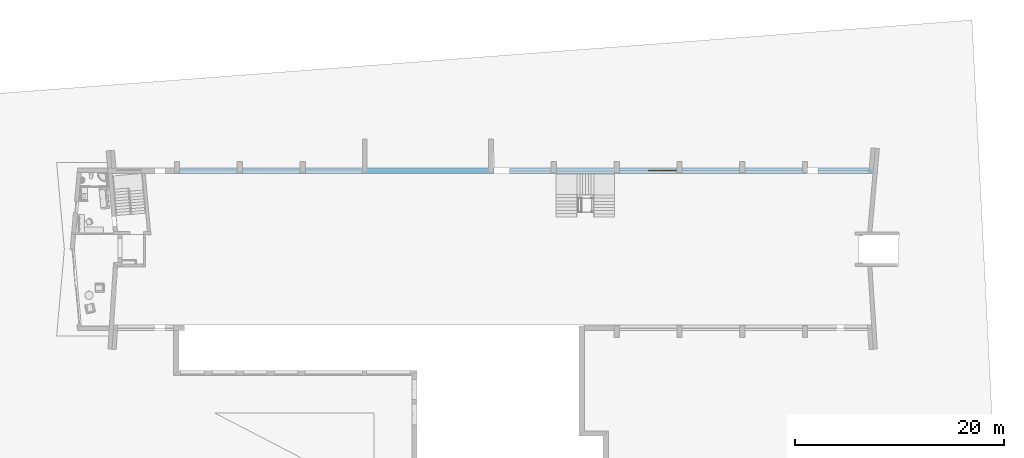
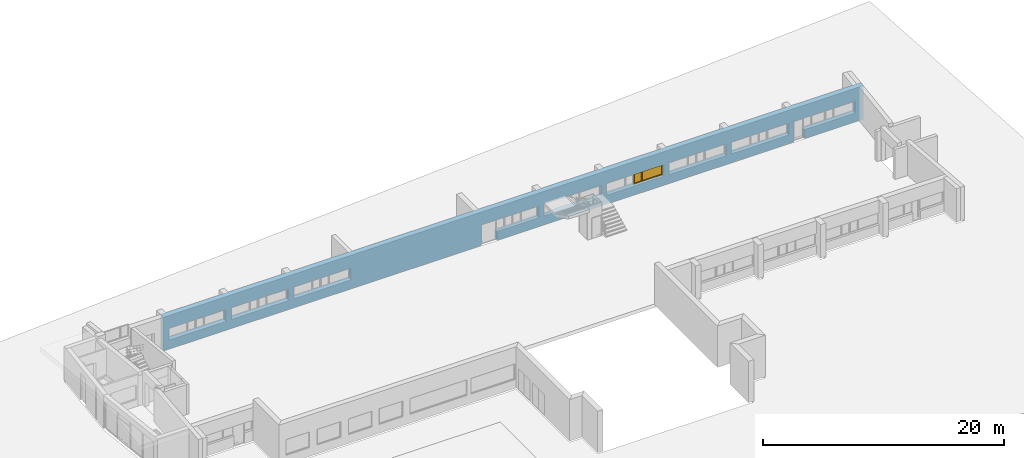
# One storey, part 7 of 36: 1 window, 20 openings, plus 1 element that does not belong to this part.
"""IFC2X3 building model written with IfcOpenShell, lengths in millimetres."""

from ifc_helpers import new_model, entity, si_unit, converted_unit, money_unit, direction, frame, origin_with_axes, place, context, subcontext, project, spatial, polyline, outline, extrude, open_shell, faceted_brep, surface_model, source, transform, mapped, material, material_list, layer, layer_set, layer_usage, type_object, element, fill, save


model = new_model("IFC2X3")

# Units and contexts
model_context = context("Model", 3, precision=1e-05, world=origin_with_axes(), true_north=direction((0.0, 1.0)))
body_context = subcontext(model_context, "Body", "Model", "MODEL_VIEW")
ifc_project = project(units=[si_unit("LENGTHUNIT", "METRE", prefix="MILLI"), si_unit("AREAUNIT", "SQUARE_METRE"), si_unit("VOLUMEUNIT", "CUBIC_METRE"), converted_unit("PLANEANGLEUNIT", "DEGREE", entity("IfcPlaneAngleMeasure", 0.0174532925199), si_unit("PLANEANGLEUNIT", "RADIAN"), dimensions=[0, 0, 0, 0, 0, 0, 0]), si_unit("SOLIDANGLEUNIT", "STERADIAN"), money_unit("USD"), converted_unit("TIMEUNIT", "Year", entity("IfcTimeMeasure", 31556926.0), si_unit("TIMEUNIT", "SECOND"), dimensions=[0, 0, 0, 0, 0, 0, 0]), si_unit("MASSUNIT", "GRAM"), si_unit("THERMODYNAMICTEMPERATUREUNIT", "DEGREE_CELSIUS"), si_unit("LUMINOUSINTENSITYUNIT", "LUMEN")], contexts=[model_context])

# Site, building, storey
site_placement = place(None, origin_with_axes())
site = spatial("IfcSite", under=ifc_project, at=site_placement, Name="Site", CompositionType="ELEMENT")
building_placement = place(site_placement, origin_with_axes())
building = spatial("IfcBuilding", under=site, at=building_placement, Name="Building", CompositionType="ELEMENT")
storey_placement = place(building_placement, frame((0.0, 0.0, -3400.0), z_axis=(0.0, 0.0, 1.0), x_axis=(1.0, 0.0, 0.0)))
storey = spatial("IfcBuildingStorey", under=building, at=storey_placement, Name="1KORRUS", CompositionType="ELEMENT", Elevation=-3400.0)

# Wall, openings, window
ifc_material_1 = material(Name="Olemasolevad seinad tellis, uus viimistlus")
ifc_layer = layer(ifc_material_1, 500.0, ventilated="UNKNOWN")
ifc_layer_set = layer_set([ifc_layer], Name="Olemasolevad seinad tellis, uus viimistlus 500")
ifc_layer_usage = layer_usage(ifc_layer_set, "AXIS2", "POSITIVE", -100.0)
wall_type = type_object("IfcWallType", Name="Olemasolevad seinad tellis, uus viimistlus 500", PredefinedType="NOTDEFINED")
wall_placement = place(storey_placement, frame((-48393.8274049, -5039.6041088, 0.0), z_axis=(0.0, 0.0, 1.0), x_axis=(1.0, 0.0, 0.0)))
wall = element("IfcWallStandardCase", 1, at=wall_placement, inside=storey, type_object=wall_type, material=ifc_layer_usage, Name="VS1", ObjectType="VS1", context=body_context, shape_type="SweptSolid", body=[
    extrude(outline(polyline([(0.0, -100.0), (67149.8194303, -100.0), (67149.8194303, 400.0), (0.0, 400.0), (0.0, -100.0)])), origin_with_axes(), (0.0, 0.0, 1.0), 3400.0),
])
opening_1_placement = place(wall_placement, frame((1878.53070154, 0.0, 900.0), z_axis=(0.0, 0.0, 1.0), x_axis=(1.0, 0.0, 0.0)))
element("IfcOpeningElement", 2, at=opening_1_placement, cuts=wall, Name="Olemasolevad aknad jäävad", context=body_context, shape_type="SweptSolid", body=[
    extrude(outline(polyline([(-1375.0, 1200.0), (-1375.0, 0.0), (1375.0, 0.0), (1375.0, 1200.0), (-1375.0, 1200.0)])), frame((0.0, 250.0, 0.0), z_axis=(0.0, -1.0, 0.0), x_axis=(1.0, 0.0, 0.0)), (0.0, 0.0, 1.0), 850.0),
    extrude(outline(polyline([(-1375.0, 0.0), (-1375.0, -1200.0), (1375.0, -1200.0), (1375.0, 0.0), (-1375.0, 0.0)])), frame((0.0, 250.0, 0.0), z_axis=(0.0, 1.0, 0.0), x_axis=(1.0, 0.0, 0.0)), (0.0, 0.0, 1.0), 650.0),
])
opening_2_placement = place(wall_placement, frame((7878.53070154, 0.0, 900.0), z_axis=(0.0, 0.0, 1.0), x_axis=(1.0, 0.0, 0.0)))
element("IfcOpeningElement", 3, at=opening_2_placement, cuts=wall, Name="Olemasolevad aknad jäävad", context=body_context, shape_type="SweptSolid", body=[
    extrude(outline(polyline([(-1375.0, 1200.0), (-1375.0, 0.0), (1375.0, 0.0), (1375.0, 1200.0), (-1375.0, 1200.0)])), frame((0.0, 250.0, 0.0), z_axis=(0.0, -1.0, 0.0), x_axis=(1.0, 0.0, 0.0)), (0.0, 0.0, 1.0), 850.0),
    extrude(outline(polyline([(-1375.0, 0.0), (-1375.0, -1200.0), (1375.0, -1200.0), (1375.0, 0.0), (-1375.0, 0.0)])), frame((0.0, 250.0, 0.0), z_axis=(0.0, 1.0, 0.0), x_axis=(1.0, 0.0, 0.0)), (0.0, 0.0, 1.0), 650.0),
])
opening_3_placement = place(wall_placement, frame((13878.5307015, 0.0, 900.0), z_axis=(0.0, 0.0, 1.0), x_axis=(1.0, 0.0, 0.0)))
element("IfcOpeningElement", 4, at=opening_3_placement, cuts=wall, Name="Olemasolevad aknad jäävad", context=body_context, shape_type="SweptSolid", body=[
    extrude(outline(polyline([(-1375.0, 1200.0), (-1375.0, 0.0), (1375.0, 0.0), (1375.0, 1200.0), (-1375.0, 1200.0)])), frame((0.0, 250.0, 0.0), z_axis=(0.0, -1.0, 0.0), x_axis=(1.0, 0.0, 0.0)), (0.0, 0.0, 1.0), 850.0),
    extrude(outline(polyline([(-1375.0, 0.0), (-1375.0, -1200.0), (1375.0, -1200.0), (1375.0, 0.0), (-1375.0, 0.0)])), frame((0.0, 250.0, 0.0), z_axis=(0.0, 1.0, 0.0), x_axis=(1.0, 0.0, 0.0)), (0.0, 0.0, 1.0), 650.0),
])
opening_4_placement = place(wall_placement, frame((4628.53070154, 0.0, 900.0), z_axis=(0.0, 0.0, 1.0), x_axis=(1.0, 0.0, 0.0)))
element("IfcOpeningElement", 5, at=opening_4_placement, cuts=wall, Name="Olemasolevad aknad jäävad", context=body_context, shape_type="SweptSolid", body=[
    extrude(outline(polyline([(1375.0, 1200.0), (-1375.0, 1200.0), (-1375.0, 0.0), (1375.0, 0.0), (1375.0, 1200.0)])), frame((0.0, 250.0, 0.0), z_axis=(0.0, -1.0, 0.0), x_axis=(1.0, 0.0, 0.0)), (0.0, 0.0, 1.0), 850.0),
    extrude(outline(polyline([(1375.0, 0.0), (-1375.0, 0.0), (-1375.0, -1200.0), (1375.0, -1200.0), (1375.0, 0.0)])), frame((0.0, 250.0, 0.0), z_axis=(0.0, 1.0, 0.0), x_axis=(1.0, 0.0, 0.0)), (0.0, 0.0, 1.0), 650.0),
])
opening_5_placement = place(wall_placement, frame((10628.5307015, 0.0, 900.0), z_axis=(0.0, 0.0, 1.0), x_axis=(1.0, 0.0, 0.0)))
element("IfcOpeningElement", 6, at=opening_5_placement, cuts=wall, Name="Olemasolevad aknad jäävad", context=body_context, shape_type="SweptSolid", body=[
    extrude(outline(polyline([(1375.0, 1200.0), (-1375.0, 1200.0), (-1375.0, 0.0), (1375.0, 0.0), (1375.0, 1200.0)])), frame((0.0, 250.0, 0.0), z_axis=(0.0, -1.0, 0.0), x_axis=(1.0, 0.0, 0.0)), (0.0, 0.0, 1.0), 850.0),
    extrude(outline(polyline([(1375.0, 0.0), (-1375.0, 0.0), (-1375.0, -1200.0), (1375.0, -1200.0), (1375.0, 0.0)])), frame((0.0, 250.0, 0.0), z_axis=(0.0, 1.0, 0.0), x_axis=(1.0, 0.0, 0.0)), (0.0, 0.0, 1.0), 650.0),
])
opening_6_placement = place(wall_placement, frame((16616.9651775, 0.0, 900.0), z_axis=(0.0, 0.0, 1.0), x_axis=(1.0, 0.0, 0.0)))
element("IfcOpeningElement", 7, at=opening_6_placement, cuts=wall, Name="Olemasolevad aknad jäävad", context=body_context, shape_type="SweptSolid", body=[
    extrude(outline(polyline([(1375.0, 1200.0), (-1375.0, 1200.0), (-1375.0, 0.0), (1375.0, 0.0), (1375.0, 1200.0)])), frame((0.0, 250.0, 0.0), z_axis=(0.0, -1.0, 0.0), x_axis=(1.0, 0.0, 0.0)), (0.0, 0.0, 1.0), 850.0),
    extrude(outline(polyline([(1375.0, 0.0), (-1375.0, 0.0), (-1375.0, -1200.0), (1375.0, -1200.0), (1375.0, 0.0)])), frame((0.0, 250.0, 0.0), z_axis=(0.0, 1.0, 0.0), x_axis=(1.0, 0.0, 0.0)), (0.0, 0.0, 1.0), 650.0),
])
opening_7_placement = place(wall_placement, frame((34803.5307015, 0.0, 900.0), z_axis=(0.0, 0.0, 1.0), x_axis=(1.0, 0.0, 0.0)))
element("IfcOpeningElement", 8, at=opening_7_placement, cuts=wall, Name="Olemasolevad aknad jäävad", context=body_context, shape_type="SweptSolid", body=[
    extrude(outline(polyline([(1200.0, 0.0), (-1200.0, 0.0), (-1200.0, -1200.0), (1200.0, -1200.0), (1200.0, 0.0)])), frame((0.0, 100.0, 0.0), z_axis=(0.0, 1.0, 0.0), x_axis=(1.0, 0.0, 0.0)), (0.0, 0.0, 1.0), 800.0),
    extrude(outline(polyline([(1200.0, 1200.0), (-1200.0, 1200.0), (-1200.0, 0.0), (1200.0, 0.0), (1200.0, 1200.0)])), frame((0.0, 100.0, 0.0), z_axis=(0.0, -1.0, 0.0), x_axis=(1.0, 0.0, 0.0)), (0.0, 0.0, 1.0), 700.0),
])
opening_8_placement = place(wall_placement, frame((40625.1633636, 0.0, 900.0), z_axis=(0.0, 0.0, 1.0), x_axis=(1.0, 0.0, 0.0)))
element("IfcOpeningElement", 9, at=opening_8_placement, cuts=wall, Name="Olemasolevad aknad jäävad", context=body_context, shape_type="SweptSolid", body=[
    extrude(outline(polyline([(1400.0, 0.0), (-1400.0, 0.0), (-1400.0, -1200.0), (1400.0, -1200.0), (1400.0, 0.0)])), frame((0.0, 100.0, 0.0), z_axis=(0.0, 1.0, 0.0), x_axis=(1.0, 0.0, 0.0)), (0.0, 0.0, 1.0), 800.0),
    extrude(outline(polyline([(1400.0, 1200.0), (-1400.0, 1200.0), (-1400.0, 0.0), (1400.0, 0.0), (1400.0, 1200.0)])), frame((0.0, 100.0, 0.0), z_axis=(0.0, -1.0, 0.0), x_axis=(1.0, 0.0, 0.0)), (0.0, 0.0, 1.0), 700.0),
])
opening_9_placement = place(wall_placement, frame((37871.3218818, 0.0, 900.0), z_axis=(0.0, 0.0, 1.0), x_axis=(1.0, 0.0, 0.0)))
element("IfcOpeningElement", 10, at=opening_9_placement, cuts=wall, Name="Olemasolevad aknad jäävad", context=body_context, shape_type="SweptSolid", body=[
    extrude(outline(polyline([(-1367.791, 0.0), (-1367.791, -1200.0), (1367.791, -1200.0), (1367.791, 0.0), (-1367.791, 0.0)])), frame((0.0, 150.0, 0.0), z_axis=(0.0, 1.0, 0.0), x_axis=(1.0, 0.0, 0.0)), (0.0, 0.0, 1.0), 750.0),
    extrude(outline(polyline([(-1367.791, 1200.0), (-1367.791, 0.0), (1367.791, 0.0), (1367.791, 1200.0), (-1367.791, 1200.0)])), frame((0.0, 150.0, 0.0), z_axis=(0.0, -1.0, 0.0), x_axis=(1.0, 0.0, 0.0)), (0.0, 0.0, 1.0), 750.0),
])
opening_10_placement = place(wall_placement, frame((46628.5307015, 0.0, 900.0), z_axis=(0.0, 0.0, 1.0), x_axis=(1.0, 0.0, 0.0)))
opening_10 = element("IfcOpeningElement", 11, at=opening_10_placement, cuts=wall, Name="Olemasolevad aknad jäävad", context=body_context, shape_type="SweptSolid", body=[
    extrude(outline(polyline([(1375.0, 1200.0), (-1375.0, 1200.0), (-1375.0, 0.0), (1375.0, 0.0), (1375.0, 1200.0)])), frame((0.0, 150.0, 0.0), z_axis=(0.0, -1.0, 0.0), x_axis=(1.0, 0.0, 0.0)), (0.0, 0.0, 1.0), 750.0),
    extrude(outline(polyline([(1375.0, 0.0), (-1375.0, 0.0), (-1375.0, -1200.0), (1375.0, -1200.0), (1375.0, 0.0)])), frame((0.0, 150.0, 0.0), z_axis=(0.0, 1.0, 0.0), x_axis=(1.0, 0.0, 0.0)), (0.0, 0.0, 1.0), 750.0),
])
opening_11_placement = place(wall_placement, frame((43878.5307015, 0.0, 900.0), z_axis=(0.0, 0.0, 1.0), x_axis=(1.0, 0.0, 0.0)))
element("IfcOpeningElement", 12, at=opening_11_placement, cuts=wall, Name="Olemasolevad aknad jäävad", context=body_context, shape_type="SweptSolid", body=[
    extrude(outline(polyline([(-1375.0, 1200.0), (-1375.0, 0.0), (1375.0, 0.0), (1375.0, 1200.0), (-1375.0, 1200.0)])), frame((0.0, 200.0, 0.0), z_axis=(0.0, -1.0, 0.0), x_axis=(1.0, 0.0, 0.0)), (0.0, 0.0, 1.0), 800.0),
    extrude(outline(polyline([(-1375.0, 0.0), (-1375.0, -1200.0), (1375.0, -1200.0), (1375.0, 0.0), (-1375.0, 0.0)])), frame((0.0, 200.0, 0.0), z_axis=(0.0, 1.0, 0.0), x_axis=(1.0, 0.0, 0.0)), (0.0, 0.0, 1.0), 700.0),
])
opening_12_placement = place(wall_placement, frame((52635.3834465, 0.0, 900.0), z_axis=(0.0, 0.0, 1.0), x_axis=(1.0, 0.0, 0.0)))
element("IfcOpeningElement", 13, at=opening_12_placement, cuts=wall, Name="Olemasolevad aknad jäävad", context=body_context, shape_type="SweptSolid", body=[
    extrude(outline(polyline([(1376.809, 1200.0), (-1376.809, 1200.0), (-1376.809, 0.0), (1376.809, 0.0), (1376.809, 1200.0)])), frame((0.0, 150.0, 0.0), z_axis=(0.0, -1.0, 0.0), x_axis=(1.0, 0.0, 0.0)), (0.0, 0.0, 1.0), 750.0),
    extrude(outline(polyline([(1376.809, 0.0), (-1376.809, 0.0), (-1376.809, -1200.0), (1376.809, -1200.0), (1376.809, 0.0)])), frame((0.0, 150.0, 0.0), z_axis=(0.0, 1.0, 0.0), x_axis=(1.0, 0.0, 0.0)), (0.0, 0.0, 1.0), 750.0),
])
opening_13_placement = place(wall_placement, frame((49883.9987013, 0.0, 900.0), z_axis=(0.0, 0.0, 1.0), x_axis=(1.0, 0.0, 0.0)))
element("IfcOpeningElement", 14, at=opening_13_placement, cuts=wall, Name="Olemasolevad aknad jäävad", context=body_context, shape_type="SweptSolid", body=[
    extrude(outline(polyline([(-1375.0, 1200.0), (-1375.0, 0.0), (1375.0, 0.0), (1375.0, 1200.0), (-1375.0, 1200.0)])), frame((0.0, 200.0, 0.0), z_axis=(0.0, -1.0, 0.0), x_axis=(1.0, 0.0, 0.0)), (0.0, 0.0, 1.0), 800.0),
    extrude(outline(polyline([(-1375.0, 0.0), (-1375.0, -1200.0), (1375.0, -1200.0), (1375.0, 0.0), (-1375.0, 0.0)])), frame((0.0, 200.0, 0.0), z_axis=(0.0, 1.0, 0.0), x_axis=(1.0, 0.0, 0.0)), (0.0, 0.0, 1.0), 700.0),
])
opening_14_placement = place(wall_placement, frame((58631.8843372, 0.0, 900.0), z_axis=(0.0, 0.0, 1.0), x_axis=(1.0, 0.0, 0.0)))
element("IfcOpeningElement", 15, at=opening_14_placement, cuts=wall, Name="Olemasolevad aknad jäävad", context=body_context, shape_type="SweptSolid", body=[
    extrude(outline(polyline([(1371.646, 1200.0), (-1371.646, 1200.0), (-1371.646, 0.0), (1371.646, 0.0), (1371.646, 1200.0)])), frame((0.0, 150.0, 0.0), z_axis=(0.0, -1.0, 0.0), x_axis=(1.0, 0.0, 0.0)), (0.0, 0.0, 1.0), 750.0),
    extrude(outline(polyline([(1371.646, 0.0), (-1371.646, 0.0), (-1371.646, -1200.0), (1371.646, -1200.0), (1371.646, 0.0)])), frame((0.0, 150.0, 0.0), z_axis=(0.0, 1.0, 0.0), x_axis=(1.0, 0.0, 0.0)), (0.0, 0.0, 1.0), 750.0),
])
opening_15_placement = place(wall_placement, frame((55886.6217615, 0.0, 900.0), z_axis=(0.0, 0.0, 1.0), x_axis=(1.0, 0.0, 0.0)))
element("IfcOpeningElement", 16, at=opening_15_placement, cuts=wall, Name="Olemasolevad aknad jäävad", context=body_context, shape_type="SweptSolid", body=[
    extrude(outline(polyline([(-1375.0, 1200.0), (-1375.0, 0.0), (1375.0, 0.0), (1375.0, 1200.0), (-1375.0, 1200.0)])), frame((0.0, 200.0, 0.0), z_axis=(0.0, -1.0, 0.0), x_axis=(1.0, 0.0, 0.0)), (0.0, 0.0, 1.0), 800.0),
    extrude(outline(polyline([(-1375.0, 0.0), (-1375.0, -1200.0), (1375.0, -1200.0), (1375.0, 0.0), (-1375.0, 0.0)])), frame((0.0, 200.0, 0.0), z_axis=(0.0, 1.0, 0.0), x_axis=(1.0, 0.0, 0.0)), (0.0, 0.0, 1.0), 700.0),
])
opening_16_placement = place(wall_placement, frame((64995.2517085, 0.0, 900.0), z_axis=(0.0, 0.0, 1.0), x_axis=(1.0, 0.0, 0.0)))
element("IfcOpeningElement", 17, at=opening_16_placement, cuts=wall, Name="Olemasolevad aknad jäävad", context=body_context, shape_type="SweptSolid", body=[
    extrude(outline(polyline([(1375.0, 1200.0), (-1375.0, 1200.0), (-1375.0, 0.0), (1375.0, 0.0), (1375.0, 1200.0)])), frame((0.0, 150.0, 0.0), z_axis=(0.0, -1.0, 0.0), x_axis=(1.0, 0.0, 0.0)), (0.0, 0.0, 1.0), 750.0),
    extrude(outline(polyline([(1375.0, 0.0), (-1375.0, 0.0), (-1375.0, -1200.0), (1375.0, -1200.0), (1375.0, 0.0)])), frame((0.0, 150.0, 0.0), z_axis=(0.0, 1.0, 0.0), x_axis=(1.0, 0.0, 0.0)), (0.0, 0.0, 1.0), 750.0),
])
opening_17_placement = place(wall_placement, frame((32810.8244307, 0.0, 900.0), z_axis=(0.0, 0.0, 1.0), x_axis=(1.0, 0.0, 0.0)))
element("IfcOpeningElement", 18, at=opening_17_placement, cuts=wall, Name="Olemasolevad aknad jäävad", context=body_context, shape_type="SweptSolid", body=[
    extrude(outline(polyline([(792.706, 0.0), (-792.706, 0.0), (-792.706, -1200.0), (792.706, -1200.0), (792.706, 0.0)])), frame((0.0, 100.0, 0.0), z_axis=(0.0, 1.0, 0.0), x_axis=(1.0, 0.0, 0.0)), (0.0, 0.0, 1.0), 800.0),
    extrude(outline(polyline([(792.706, 1200.0), (-792.706, 1200.0), (-792.706, 0.0), (792.706, 0.0), (792.706, 1200.0)])), frame((0.0, 100.0, 0.0), z_axis=(0.0, -1.0, 0.0), x_axis=(1.0, 0.0, 0.0)), (0.0, 0.0, 1.0), 700.0),
])
opening_18_placement = place(wall_placement, frame((62561.891205, 0.0, 900.0), z_axis=(0.0, 0.0, 1.0), x_axis=(1.0, 0.0, 0.0)))
element("IfcOpeningElement", 19, at=opening_18_placement, cuts=wall, Name="Olemasolevad aknad jäävad", context=body_context, shape_type="SweptSolid", body=[
    extrude(outline(polyline([(1058.361, 1200.0), (-1058.361, 1200.0), (-1058.361, 0.0), (1058.361, 0.0), (1058.361, 1200.0)])), frame((0.0, 150.0, 0.0), z_axis=(0.0, -1.0, 0.0), x_axis=(1.0, 0.0, 0.0)), (0.0, 0.0, 1.0), 750.0),
    extrude(outline(polyline([(1058.361, 0.0), (-1058.361, 0.0), (-1058.361, -1200.0), (1058.361, -1200.0), (1058.361, 0.0)])), frame((0.0, 150.0, 0.0), z_axis=(0.0, 1.0, 0.0), x_axis=(1.0, 0.0, 0.0)), (0.0, 0.0, 1.0), 750.0),
])
opening_19_placement = place(wall_placement, frame((61003.5307015, 0.0, -4.66441168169), z_axis=(0.0, 0.0, 1.0), x_axis=(1.0, 0.0, 0.0)))
element("IfcOpeningElement", 20, at=opening_19_placement, cuts=wall, Name="ava", context=body_context, shape_type="SweptSolid", body=[
    extrude(outline(polyline([(-500.0, 2100.0), (-500.0, 0.0), (500.0, 0.0), (500.0, 2100.0), (-500.0, 2100.0)])), frame((0.0, 200.0, 0.0), z_axis=(0.0, 1.0, 0.0), x_axis=(-1.0, 0.0, 0.0)), (0.0, 0.0, -1.0), 800.0),
    extrude(outline(polyline([(-500.0, 0.0), (-500.0, -2100.0), (500.0, -2100.0), (500.0, 0.0), (-500.0, 0.0)])), frame((0.0, 200.0, 0.0), z_axis=(0.0, -1.0, 0.0), x_axis=(-1.0, 0.0, 0.0)), (0.0, 0.0, -1.0), 700.0),
])
opening_20_placement = place(wall_placement, frame((31268.1181599, 0.0, 0.0), z_axis=(0.0, 0.0, 1.0), x_axis=(1.0, 0.0, 0.0)))
element("IfcOpeningElement", 21, at=opening_20_placement, cuts=wall, Name="ava", context=body_context, shape_type="SweptSolid", body=[
    extrude(outline(polyline([(-750.0, 2100.0), (-750.0, 0.0), (750.0, 0.0), (750.0, 2100.0), (-750.0, 2100.0)])), frame((0.0, 200.0, 0.0), z_axis=(0.0, -1.0, 0.0), x_axis=(1.0, 0.0, 0.0)), (0.0, 0.0, 1.0), 800.0),
    extrude(outline(polyline([(-750.0, 0.0), (-750.0, -2100.0), (750.0, -2100.0), (750.0, 0.0), (-750.0, 0.0)])), frame((0.0, 200.0, 0.0), z_axis=(0.0, 1.0, 0.0), x_axis=(1.0, 0.0, 0.0)), (0.0, 0.0, 1.0), 700.0),
])
ifc_material_2 = material(Name="Background")
ifc_material_list = material_list([ifc_material_2])
window_style = type_object("IfcWindowStyle", Name="Double Window 19", ConstructionType="NOTDEFINED", OperationType="DOUBLE_PANEL_VERTICAL", ParameterTakesPrecedence=False, Sizeable=False)
shared_shape = source(origin_with_axes(), body_context, "Body", "SurfaceModel", [
    faceted_brep([(1350.0, -200.0, 1150.0), (1350.0, -225.0, 1150.0), (1325.0, -225.0, 1150.0), (1325.0, -250.0, 1150.0), (1375.0, -250.0, 1150.0), (1375.0, -200.0, 1150.0), (1350.0, -200.0, 50.0), (1350.0, -225.0, 50.0), (1325.0, -225.0, 50.0), (1325.0, -250.0, 50.0), (1375.0, -250.0, 50.0), (1375.0, -200.0, 50.0)], [[[0, 1, 2, 3, 4, 5]], [[1, 0, 6, 7]], [[8, 2, 1, 7]], [[2, 8, 9, 3]], [[4, 3, 9, 10]], [[5, 4, 10, 11]], [[6, 0, 5, 11]], [[7, 6, 11, 10, 9, 8]]]),
    faceted_brep([(-1325.0, -225.0, 1150.0), (-1350.0, -225.0, 1150.0), (-1350.0, -200.0, 1150.0), (-1375.0, -200.0, 1150.0), (-1375.0, -250.0, 1150.0), (-1325.0, -250.0, 1150.0), (-1325.0, -225.0, 50.0), (-1350.0, -225.0, 50.0), (-1350.0, -200.0, 50.0), (-1375.0, -200.0, 50.0), (-1375.0, -250.0, 50.0), (-1325.0, -250.0, 50.0)], [[[0, 1, 2, 3, 4, 5]], [[1, 0, 6, 7]], [[8, 2, 1, 7]], [[2, 8, 9, 3]], [[9, 10, 4, 3]], [[10, 11, 5, 4]], [[6, 0, 5, 11]], [[7, 6, 11, 10, 9, 8]]]),
    faceted_brep([(-525.0, -225.0, 1150.0), (-550.0, -225.0, 1150.0), (-550.0, -200.0, 1150.0), (-600.0, -200.0, 1150.0), (-600.0, -225.0, 1150.0), (-625.0, -225.0, 1150.0), (-625.0, -250.0, 1150.0), (-525.0, -250.0, 1150.0), (-525.0, -225.0, 50.0), (-550.0, -225.0, 50.0), (-550.0, -200.0, 50.0), (-600.0, -200.0, 50.0), (-600.0, -225.0, 50.0), (-625.0, -225.0, 50.0), (-625.0, -250.0, 50.0), (-525.0, -250.0, 50.0)], [[[0, 1, 2, 3, 4, 5, 6, 7]], [[1, 0, 8, 9]], [[10, 2, 1, 9]], [[2, 10, 11, 3]], [[4, 3, 11, 12]], [[13, 5, 4, 12]], [[5, 13, 14, 6]], [[14, 15, 7, 6]], [[8, 0, 7, 15]], [[9, 8, 15, 14, 13, 12, 11, 10]]]),
    faceted_brep([(-525.0, -225.0, 50.0), (-550.0, -225.0, 50.0), (-550.0, -200.0, 50.0), (-600.0, -200.0, 50.0), (-600.0, -225.0, 50.0), (-625.0, -225.0, 50.0), (-625.0, -250.0, 50.0), (-525.0, -250.0, 50.0), (1325.0, -225.0, 50.0), (1350.0, -225.0, 50.0), (1350.0, -225.0, 25.0), (-550.0, -225.0, 25.0), (-550.0, -200.0, 25.0), (1350.0, -200.0, 25.0), (1350.0, -200.0, 50.0), (1375.0, -200.0, 50.0), (1375.0, -200.0, 0.0), (-1375.0, -200.0, 0.0), (-1375.0, -200.0, 50.0), (-1350.0, -200.0, 50.0), (-1350.0, -200.0, 25.0), (-600.0, -200.0, 25.0), (-600.0, -225.0, 25.0), (-1350.0, -225.0, 50.0), (-1325.0, -225.0, 50.0), (-1350.0, -225.0, 25.0), (-1325.0, -250.0, 50.0), (1375.0, -250.0, 50.0), (1325.0, -250.0, 50.0), (-1375.0, -250.0, 50.0), (-1375.0, -250.0, 0.0), (1375.0, -250.0, 0.0)], [[[0, 1, 2, 3, 4, 5, 6, 7]], [[1, 0, 8, 9, 10, 11]], [[12, 2, 1, 11]], [[13, 14, 15, 16, 17, 18, 19, 20, 21, 3, 2, 12]], [[4, 3, 21, 22]], [[23, 24, 5, 4, 22, 25]], [[5, 24, 26, 6]], [[27, 28, 7, 6, 26, 29, 30, 31]], [[8, 0, 7, 28]], [[9, 8, 28, 27, 15, 14]], [[9, 14, 13, 10]], [[13, 12, 11, 10]], [[15, 27, 31, 16]], [[16, 31, 30, 17]], [[17, 30, 29, 18]], [[24, 23, 19, 18, 29, 26]], [[20, 19, 23, 25]], [[21, 20, 25, 22]]]),
    faceted_brep([(1350.0, -200.0, 1150.0), (1350.0, -200.0, 1175.0), (-550.0, -200.0, 1175.0), (-550.0, -200.0, 1150.0), (-600.0, -200.0, 1150.0), (-600.0, -200.0, 1175.0), (-1350.0, -200.0, 1175.0), (-1350.0, -200.0, 1150.0), (-1375.0, -200.0, 1150.0), (-1375.0, -200.0, 1200.0), (1375.0, -200.0, 1200.0), (1375.0, -200.0, 1150.0), (1350.0, -225.0, 1150.0), (1350.0, -225.0, 1175.0), (-550.0, -225.0, 1175.0), (-550.0, -225.0, 1150.0), (-525.0, -225.0, 1150.0), (-525.0, -250.0, 1150.0), (-625.0, -250.0, 1150.0), (-625.0, -225.0, 1150.0), (-600.0, -225.0, 1150.0), (-600.0, -225.0, 1175.0), (-1350.0, -225.0, 1175.0), (-1350.0, -225.0, 1150.0), (-1325.0, -225.0, 1150.0), (-1325.0, -250.0, 1150.0), (-1375.0, -250.0, 1150.0), (-1375.0, -250.0, 1200.0), (1375.0, -250.0, 1200.0), (1375.0, -250.0, 1150.0), (1325.0, -250.0, 1150.0), (1325.0, -225.0, 1150.0)], [[[0, 1, 2, 3, 4, 5, 6, 7, 8, 9, 10, 11]], [[1, 0, 12, 13]], [[2, 1, 13, 14]], [[3, 2, 14, 15]], [[15, 16, 17, 18, 19, 20, 4, 3]], [[5, 4, 20, 21]], [[6, 5, 21, 22]], [[7, 6, 22, 23]], [[23, 24, 25, 26, 8, 7]], [[8, 26, 27, 9]], [[9, 27, 28, 10]], [[10, 28, 29, 11]], [[12, 0, 11, 29, 30, 31]], [[16, 15, 14, 13, 12, 31]], [[16, 31, 30, 17]], [[18, 17, 30, 29, 28, 27, 26, 25]], [[24, 19, 18, 25]], [[24, 23, 22, 21, 20, 19]]]),
    faceted_brep([(1300.0, -225.0, 1125.0), (1350.0, -225.0, 1125.0), (1350.0, -175.0, 1125.0), (1300.0, -175.0, 1125.0), (1300.0, -225.0, 75.0), (1350.0, -225.0, 75.0), (1350.0, -175.0, 75.0), (1300.0, -175.0, 75.0)], [[[0, 1, 2, 3]], [[0, 4, 5, 1]], [[1, 5, 6, 2]], [[3, 2, 6, 7]], [[4, 0, 3, 7]], [[5, 4, 7, 6]]]),
    faceted_brep([(-500.0, -225.0, 75.0), (-550.0, -225.0, 75.0), (-550.0, -175.0, 75.0), (-500.0, -175.0, 75.0), (-500.0, -225.0, 1125.0), (-550.0, -225.0, 1125.0), (-550.0, -175.0, 1125.0), (-500.0, -175.0, 1125.0)], [[[0, 1, 2, 3]], [[0, 4, 5, 1]], [[1, 5, 6, 2]], [[3, 2, 6, 7]], [[4, 0, 3, 7]], [[5, 4, 7, 6]]]),
    faceted_brep([(-550.0, -225.0, 25.0), (-550.0, -225.0, 75.0), (-550.0, -175.0, 75.0), (-550.0, -175.0, 25.0), (1350.0, -225.0, 25.0), (1350.0, -225.0, 75.0), (1300.0, -225.0, 75.0), (-500.0, -225.0, 75.0), (-500.0, -175.0, 75.0), (1300.0, -175.0, 75.0), (1350.0, -175.0, 75.0), (1350.0, -175.0, 25.0)], [[[0, 1, 2, 3]], [[0, 4, 5, 6, 7, 1]], [[1, 7, 8, 2]], [[3, 2, 8, 9, 10, 11]], [[4, 0, 3, 11]], [[5, 4, 11, 10]], [[6, 5, 10, 9]], [[7, 6, 9, 8]]]),
    faceted_brep([(1350.0, -225.0, 1175.0), (1350.0, -225.0, 1125.0), (1350.0, -175.0, 1125.0), (1350.0, -175.0, 1175.0), (-550.0, -225.0, 1175.0), (-550.0, -225.0, 1125.0), (-500.0, -225.0, 1125.0), (1300.0, -225.0, 1125.0), (1300.0, -175.0, 1125.0), (-500.0, -175.0, 1125.0), (-550.0, -175.0, 1125.0), (-550.0, -175.0, 1175.0)], [[[0, 1, 2, 3]], [[0, 4, 5, 6, 7, 1]], [[1, 7, 8, 2]], [[3, 2, 8, 9, 10, 11]], [[4, 0, 3, 11]], [[5, 4, 11, 10]], [[6, 5, 10, 9]], [[7, 6, 9, 8]]]),
    surface_model("IfcShellBasedSurfaceModel", [(1300.0, -210.0, 75.0), (1300.0, -210.0, 1125.0), (-500.0, -210.0, 1125.0), (-500.0, -210.0, 75.0)], [open_shell([[[0, 1, 2, 3]]])]),
    surface_model("IfcShellBasedSurfaceModel", [(1300.0, -190.0, 75.0), (-500.0, -190.0, 75.0), (-500.0, -190.0, 1125.0), (1300.0, -190.0, 1125.0)], [open_shell([[[0, 1, 2, 3]]])]),
    faceted_brep([(-650.0, -225.0, 1125.0), (-600.0, -225.0, 1125.0), (-600.0, -175.0, 1125.0), (-650.0, -175.0, 1125.0), (-650.0, -225.0, 75.0), (-600.0, -225.0, 75.0), (-600.0, -175.0, 75.0), (-650.0, -175.0, 75.0)], [[[0, 1, 2, 3]], [[0, 4, 5, 1]], [[1, 5, 6, 2]], [[3, 2, 6, 7]], [[4, 0, 3, 7]], [[5, 4, 7, 6]]]),
    faceted_brep([(-1300.0, -225.0, 75.0), (-1350.0, -225.0, 75.0), (-1350.0, -175.0, 75.0), (-1300.0, -175.0, 75.0), (-1300.0, -225.0, 1125.0), (-1350.0, -225.0, 1125.0), (-1350.0, -175.0, 1125.0), (-1300.0, -175.0, 1125.0)], [[[0, 1, 2, 3]], [[0, 4, 5, 1]], [[1, 5, 6, 2]], [[3, 2, 6, 7]], [[4, 0, 3, 7]], [[5, 4, 7, 6]]]),
    faceted_brep([(-1350.0, -225.0, 25.0), (-1350.0, -225.0, 75.0), (-1350.0, -175.0, 75.0), (-1350.0, -175.0, 25.0), (-600.0, -225.0, 25.0), (-600.0, -225.0, 75.0), (-650.0, -225.0, 75.0), (-1300.0, -225.0, 75.0), (-1300.0, -175.0, 75.0), (-650.0, -175.0, 75.0), (-600.0, -175.0, 75.0), (-600.0, -175.0, 25.0)], [[[0, 1, 2, 3]], [[0, 4, 5, 6, 7, 1]], [[1, 7, 8, 2]], [[3, 2, 8, 9, 10, 11]], [[4, 0, 3, 11]], [[5, 4, 11, 10]], [[6, 5, 10, 9]], [[7, 6, 9, 8]]]),
    faceted_brep([(-600.0, -225.0, 1175.0), (-600.0, -225.0, 1125.0), (-600.0, -175.0, 1125.0), (-600.0, -175.0, 1175.0), (-1350.0, -225.0, 1175.0), (-1350.0, -225.0, 1125.0), (-1300.0, -225.0, 1125.0), (-650.0, -225.0, 1125.0), (-650.0, -175.0, 1125.0), (-1300.0, -175.0, 1125.0), (-1350.0, -175.0, 1125.0), (-1350.0, -175.0, 1175.0)], [[[0, 1, 2, 3]], [[0, 4, 5, 6, 7, 1]], [[1, 7, 8, 2]], [[3, 2, 8, 9, 10, 11]], [[4, 0, 3, 11]], [[5, 4, 11, 10]], [[6, 5, 10, 9]], [[7, 6, 9, 8]]]),
    surface_model("IfcShellBasedSurfaceModel", [(-650.0, -210.0, 75.0), (-650.0, -210.0, 1125.0), (-1300.0, -210.0, 1125.0), (-1300.0, -210.0, 75.0)], [open_shell([[[0, 1, 2, 3]]])]),
    surface_model("IfcShellBasedSurfaceModel", [(-650.0, -190.0, 75.0), (-1300.0, -190.0, 75.0), (-1300.0, -190.0, 1125.0), (-650.0, -190.0, 1125.0)], [open_shell([[[0, 1, 2, 3]]])]),
])
window_placement = place(opening_10_placement, frame((-1375.0, 0.0, 0.0), z_axis=(0.0, 0.0, 1.0), x_axis=(1.0, 0.0, 0.0)))
window = element("IfcWindow", 22, at=window_placement, inside=storey, type_object=window_style, material=ifc_material_list, Name="Olemasolevad aknad jäävad", ObjectType="Olemasolevad aknad jäävad", OverallHeight=1200.0, OverallWidth=2750.0, context=body_context, shape_type="MappedRepresentation", body=[
    mapped(shared_shape, transform((1375.0, 400.0, 0.0))),
])
fill(opening_10, window)

save(model, "model.ifc")
